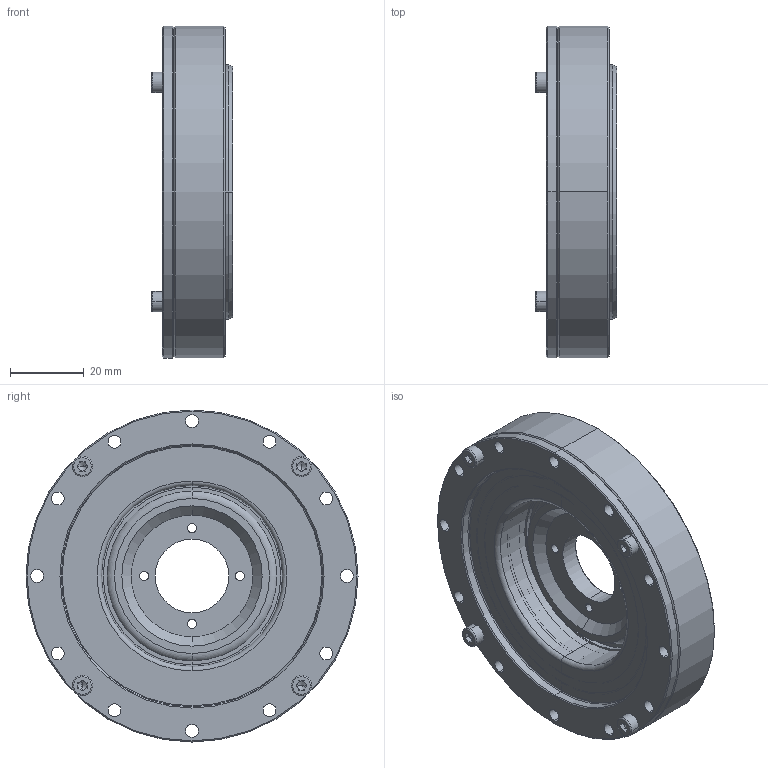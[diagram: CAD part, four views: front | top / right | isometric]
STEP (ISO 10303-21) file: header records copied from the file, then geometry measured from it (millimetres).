
FILE_DESCRIPTION (( 'STEP AP214' ), '1' );
FILE_NAME ('SHD-20-xxx.STEP', '2021-07-16T08:16:12', ( 'PC' ), ( 'Microsoft' ), 'SwSTEP 2.0', 'SolidWorks 2016', '' );
FILE_SCHEMA (( 'AUTOMOTIVE_DESIGN' ));
Length unit declared in the file: millimetre
Products named in the file (13): hexagon socket head cap screws gb_GB_FASTENER_SCREWS_HSHCS M2.5X6-N; SHD-20疏楷汜ん; SHD-20柔性轴承_預設; SHD-2050芧謫; hexagon socket head cap screws gb_GB_FASTENER_SCREWS_HSHCS M3X8-C; SHD-20-柔轮; SHD-20蝠脫粣創; SHD-20蝠脫粣創黑芛; SHD-20蝠脫粣創蚐猾-78x68x5; SHD-20-詩謫; SHD-20交叉轴承内圈; SHD-20交叉轴承外圈; SHD-20-xxx
Assembly tree (18 placements, depth 3):
  SHD-20-xxx
    SHD-20蝠脫粣創
      SHD-20交叉轴承外圈
      SHD-20交叉轴承内圈
      SHD-20-詩謫
      SHD-20蝠脫粣創蚐猾-78x68x5
      SHD-20蝠脫粣創黑芛
    SHD-20-柔轮
    hexagon socket head cap screws gb_GB_FASTENER_SCREWS_HSHCS M3X8-C  x4
    SHD-20疏楷汜ん
      SHD-2050芧謫
      SHD-20柔性轴承_預設
    hexagon socket head cap screws gb_GB_FASTENER_SCREWS_HSHCS M2.5X6-N  x4
Bounding box: 22 x 90 x 90 mm (x, y, z)
Volume: 68033.6 mm3; surface area: 62046.3 mm2
Topology: 17 solids, 17 shells, 624 faces, 1457 edges, 873 vertices
Faces by surface type: cylinder 257, plane 172, cone 147, torus 42, bspline 6
Entity records: 17216 total; most frequent: CARTESIAN_POINT 4516, DIRECTION 2666, ORIENTED_EDGE 2154, AXIS2_PLACEMENT_3D 1122, EDGE_CURVE 1077, VERTEX_POINT 675, EDGE_LOOP 640, CIRCLE 631
